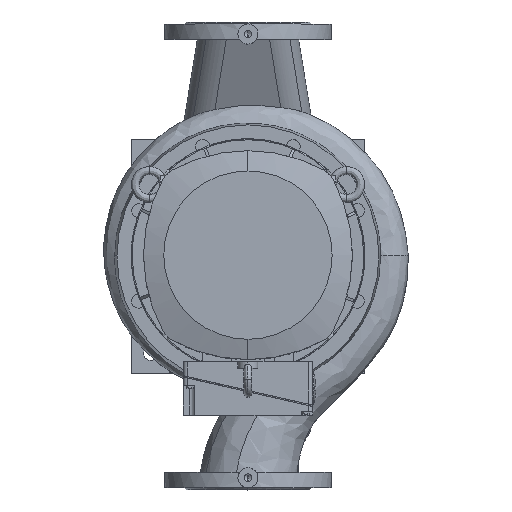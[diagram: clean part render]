
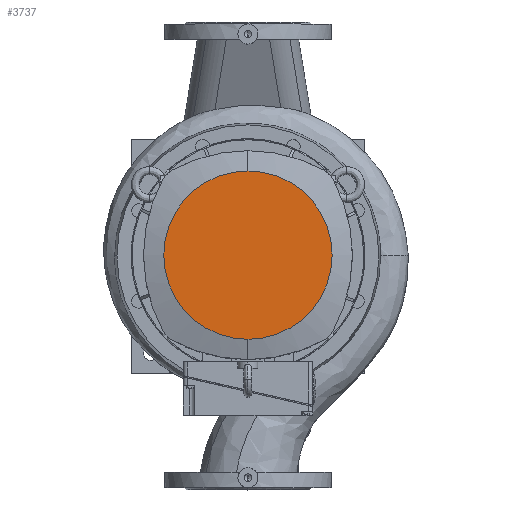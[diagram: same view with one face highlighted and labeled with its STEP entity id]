
A CAD part, top view. The second image highlights one B-rep face of the part: STEP entity #3737.
In plain terms, the highlighted planar face has unit normal (0, 0, 1).
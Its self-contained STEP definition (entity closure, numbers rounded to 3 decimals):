
#3737=ADVANCED_FACE('',(#7682),#7683,.T.);
#7682=FACE_OUTER_BOUND('',#14376,.T.);
#7683=PLANE('',#14377);
#14376=EDGE_LOOP('',(#24646,#24647));
#14377=AXIS2_PLACEMENT_3D('',#24648,#24649,#24650);
#24646=ORIENTED_EDGE('',*,*,#27367,.T.);
#24647=ORIENTED_EDGE('',*,*,#27297,.T.);
#24648=CARTESIAN_POINT('',(0.343,33.0,285.375));
#24649=DIRECTION('',(0.0,0.0,1.0));
#24650=DIRECTION('',(1.0,0.0,0.0));
#27297=EDGE_CURVE('',#31809,#31806,#31810,.T.);
#27367=EDGE_CURVE('',#31806,#31809,#31919,.T.);
#31806=VERTEX_POINT('',#39430);
#31809=VERTEX_POINT('',#39434);
#31810=CIRCLE('',#39435,126.0);
#31919=CIRCLE('',#40222,126.0);
#39430=CARTESIAN_POINT('',(0.,159.0,285.375));
#39434=CARTESIAN_POINT('',(0.,-93.,285.375));
#39435=AXIS2_PLACEMENT_3D('',#51272,#51273,#51274);
#40222=AXIS2_PLACEMENT_3D('',#51363,#51364,#51365);
#51272=CARTESIAN_POINT('',(0.,33.0,285.375));
#51273=DIRECTION('',(0.0,0.0,1.0));
#51274=DIRECTION('',(-1.0,0.0,0.0));
#51363=CARTESIAN_POINT('',(0.,33.0,285.375));
#51364=DIRECTION('',(0.0,0.0,1.0));
#51365=DIRECTION('',(-1.0,0.0,0.0));
